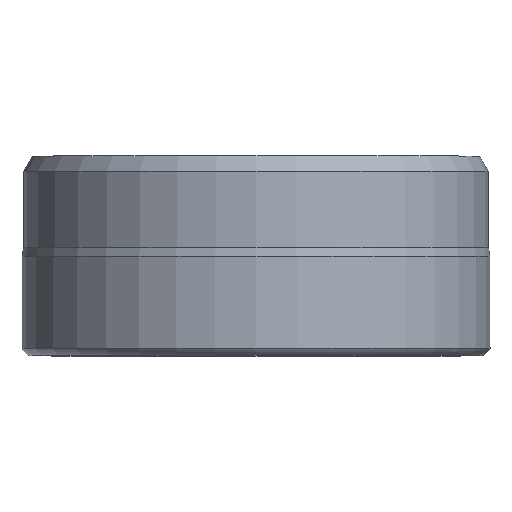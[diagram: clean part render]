
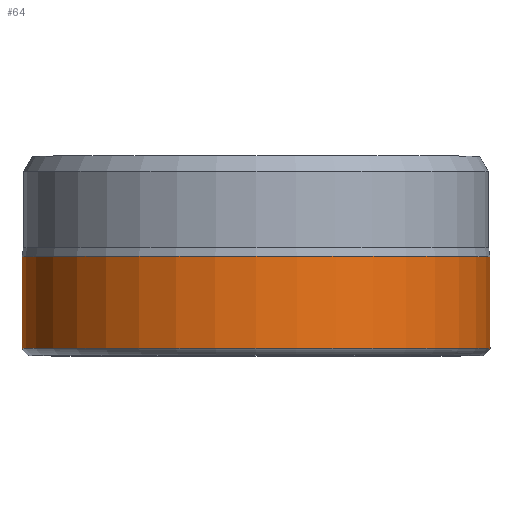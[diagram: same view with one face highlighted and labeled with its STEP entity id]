
A CAD part, top view. The second image highlights one B-rep face of the part: STEP entity #64.
In plain terms, the highlighted cylindrical face has radius 15 mm (diameter 30 mm), a partial arc.
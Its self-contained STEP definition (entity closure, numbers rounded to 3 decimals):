
#24 = VERTEX_POINT ( 'NONE', #435 ) ;
#50 = VERTEX_POINT ( 'NONE', #467 ) ;
#64 = ADVANCED_FACE ( 'NONE', ( #493 ), #581, .T. ) ;
#77 = LINE ( 'NONE', #1021, #596 ) ;
#131 = DIRECTION ( 'NONE',  ( 1., 0., 0. ) ) ;
#160 = EDGE_LOOP ( 'NONE', ( #368, #574, #598, #364 ) ) ;
#210 = EDGE_CURVE ( 'NONE', #24, #50, #224, .T. ) ;
#224 = CIRCLE ( 'NONE', #829, 15. ) ;
#252 = DIRECTION ( 'NONE',  ( 1., 0., 0. ) ) ;
#283 = DIRECTION ( 'NONE',  ( 0., -1., 0. ) ) ;
#305 = EDGE_CURVE ( 'NONE', #24, #957, #77, .T. ) ;
#328 = EDGE_CURVE ( 'NONE', #50, #980, #663, .T. ) ;
#364 = ORIENTED_EDGE ( 'NONE', *, *, #305, .F. ) ;
#365 = AXIS2_PLACEMENT_3D ( 'NONE', #631, #644, #634 ) ;
#368 = ORIENTED_EDGE ( 'NONE', *, *, #210, .T. ) ;
#393 = AXIS2_PLACEMENT_3D ( 'NONE', #425, #283, #131 ) ;
#394 = DIRECTION ( 'NONE',  ( 0., -1., 0. ) ) ;
#425 = CARTESIAN_POINT ( 'NONE',  ( 0., 0.469, 0. ) ) ;
#435 = CARTESIAN_POINT ( 'NONE',  ( 15., 6.351, 0. ) ) ;
#448 = DIRECTION ( 'NONE',  ( 0., -1., 0. ) ) ;
#467 = CARTESIAN_POINT ( 'NONE',  ( -15., 6.351, 0. ) ) ;
#493 = FACE_OUTER_BOUND ( 'NONE', #160, .T. ) ;
#514 = CARTESIAN_POINT ( 'NONE',  ( 0., 6.351, 0. ) ) ;
#558 = CARTESIAN_POINT ( 'NONE',  ( -15., -1.232, 0. ) ) ;
#574 = ORIENTED_EDGE ( 'NONE', *, *, #328, .T. ) ;
#581 = CYLINDRICAL_SURFACE ( 'NONE', #365, 15. ) ;
#583 = CARTESIAN_POINT ( 'NONE',  ( -15., 0.469, 0. ) ) ;
#596 = VECTOR ( 'NONE', #932, 1000. ) ;
#598 = ORIENTED_EDGE ( 'NONE', *, *, #737, .F. ) ;
#631 = CARTESIAN_POINT ( 'NONE',  ( 0., -1.232, 0. ) ) ;
#634 = DIRECTION ( 'NONE',  ( 1., 0., 0. ) ) ;
#644 = DIRECTION ( 'NONE',  ( 0., -1., 0. ) ) ;
#663 = LINE ( 'NONE', #558, #762 ) ;
#688 = CARTESIAN_POINT ( 'NONE',  ( 15., 0.469, 0. ) ) ;
#737 = EDGE_CURVE ( 'NONE', #957, #980, #871, .T. ) ;
#762 = VECTOR ( 'NONE', #448, 1000. ) ;
#829 = AXIS2_PLACEMENT_3D ( 'NONE', #514, #394, #252 ) ;
#871 = CIRCLE ( 'NONE', #393, 15. ) ;
#932 = DIRECTION ( 'NONE',  ( 0., -1., 0. ) ) ;
#957 = VERTEX_POINT ( 'NONE', #688 ) ;
#980 = VERTEX_POINT ( 'NONE', #583 ) ;
#1021 = CARTESIAN_POINT ( 'NONE',  ( 15., -1.232, 0. ) ) ;
